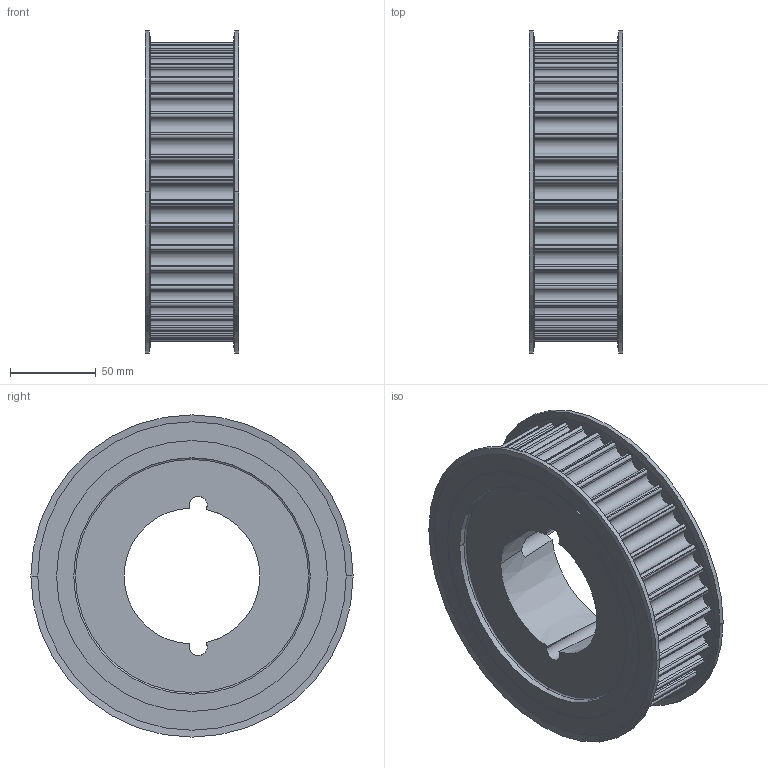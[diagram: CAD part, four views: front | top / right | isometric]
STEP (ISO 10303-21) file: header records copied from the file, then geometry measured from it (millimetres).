
FILE_DESCRIPTION( ( '' ), '1' );
FILE_NAME( 'C:/Users/Stangenbergd/Documents/CAD_Step/1/17677120.stp', '2021-10-19T10:23:15', ( '' ), ( '' ), ' ', ' ', ' ' );
FILE_SCHEMA( ( 'CONFIG_CONTROL_DESIGN' ) );
Length unit declared in the file: millimetre
Products named in the file (1): 1
Bounding box: 54.82 x 188 x 188 mm (x, y, z)
Volume: 844395.3 mm3; surface area: 114098.9 mm2
Topology: 1 solids, 1 shells, 286 faces, 829 edges, 549 vertices
Faces by surface type: cylinder 180, plane 88, cone 14, torus 4
Entity records: 9753 total; most frequent: CARTESIAN_POINT 1811, DIRECTION 1775, ORIENTED_EDGE 1654, EDGE_CURVE 827, AXIS2_PLACEMENT_3D 673, VERTEX_POINT 549, LINE 429, VECTOR 429
